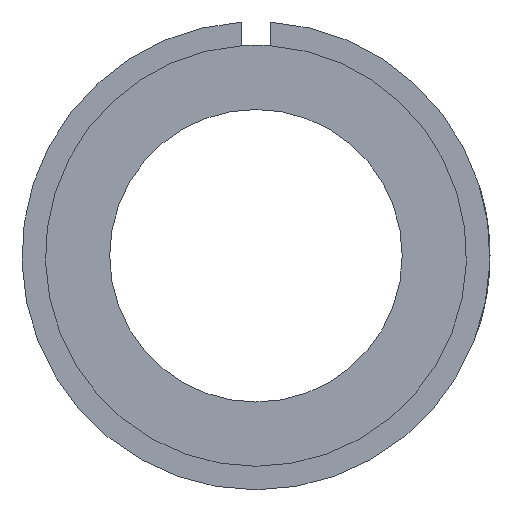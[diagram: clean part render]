
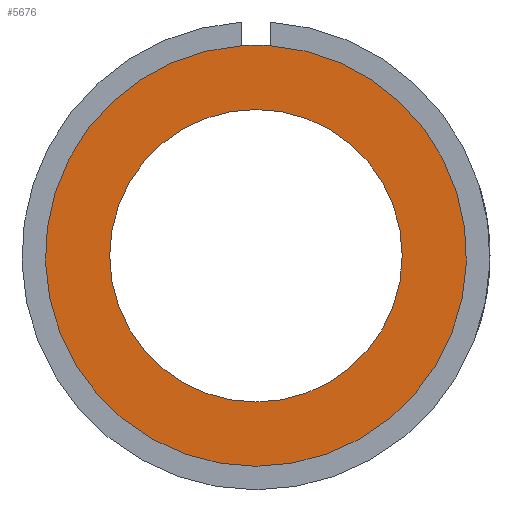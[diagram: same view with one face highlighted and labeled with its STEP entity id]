
A CAD part, left-side view. The second image highlights one B-rep face of the part: STEP entity #5676.
In plain terms, the highlighted planar face has unit normal (-1, 0, 0).
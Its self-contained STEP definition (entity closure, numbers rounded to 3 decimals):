
#127=PLANE('',#6117);
#376=CIRCLE('',#6092,10.);
#389=CIRCLE('',#6118,14.392);
#390=CIRCLE('',#6119,14.392);
#1757=ORIENTED_EDGE('',*,*,#3464,.F.);
#1758=ORIENTED_EDGE('',*,*,#3465,.F.);
#1759=ORIENTED_EDGE('',*,*,#3429,.T.);
#3429=EDGE_CURVE('',#4289,#4289,#376,.F.);
#3464=EDGE_CURVE('',#4312,#4313,#389,.T.);
#3465=EDGE_CURVE('',#4313,#4312,#390,.T.);
#4289=VERTEX_POINT('',#8844);
#4312=VERTEX_POINT('',#8915);
#4313=VERTEX_POINT('',#8916);
#4865=EDGE_LOOP('',(#1757,#1758));
#4866=EDGE_LOOP('',(#1759));
#5262=FACE_BOUND('',#4865,.T.);
#5263=FACE_BOUND('',#4866,.T.);
#5676=ADVANCED_FACE('',(#5262,#5263),#127,.T.);
#6092=AXIS2_PLACEMENT_3D('',#8843,#6673,#6674);
#6117=AXIS2_PLACEMENT_3D('',#8913,#6745,#6746);
#6118=AXIS2_PLACEMENT_3D('',#8914,#6747,#6748);
#6119=AXIS2_PLACEMENT_3D('',#8917,#6749,#6750);
#6673=DIRECTION('',(-1.,0.,0.));
#6674=DIRECTION('',(0.,0.,1.));
#6745=DIRECTION('',(-1.,0.,0.));
#6746=DIRECTION('',(0.,0.,-1.));
#6747=DIRECTION('',(1.,0.,0.));
#6748=DIRECTION('',(0.,0.,-1.));
#6749=DIRECTION('',(1.,0.,0.));
#6750=DIRECTION('',(0.,0.,-1.));
#8843=CARTESIAN_POINT('',(-20.9,0.,0.));
#8844=CARTESIAN_POINT('',(-20.9,0.,10.));
#8913=CARTESIAN_POINT('',(-20.9,0.,0.));
#8914=CARTESIAN_POINT('',(-20.9,0.,0.));
#8915=CARTESIAN_POINT('',(-20.9,1.,14.358));
#8916=CARTESIAN_POINT('',(-20.9,-1.,14.358));
#8917=CARTESIAN_POINT('',(-20.9,0.,0.));
